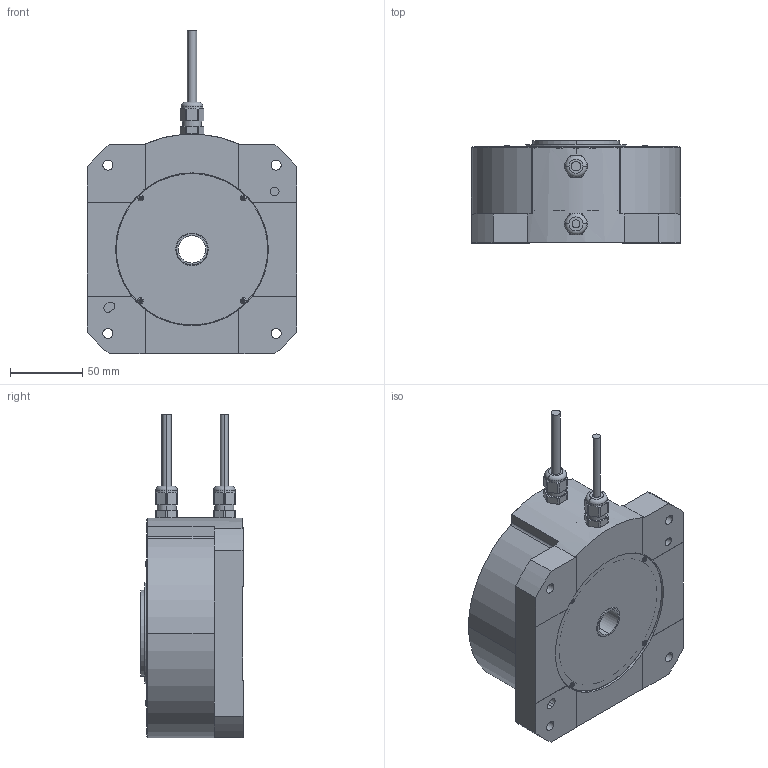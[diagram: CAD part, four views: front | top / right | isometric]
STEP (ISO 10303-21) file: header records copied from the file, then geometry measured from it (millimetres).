
FILE_DESCRIPTION (( 'STEP AP214' ), '1' );
FILE_NAME ('ND140-65-FSP(INC).step', '2024-03-26T00:39:22', ( '' ), ( '' ), 'SwSTEP 2.0', 'SolidWorks 2023', '' );
FILE_SCHEMA (( 'AUTOMOTIVE_DESIGN' ));
Length unit declared in the file: millimetre
Products named in the file (1): ND140-65-FSP(INC)
Bounding box: 145 x 70.8 x 224.5 mm (x, y, z)
Volume: 365218.8 mm3; surface area: 165150.2 mm2
Topology: 14 solids, 14 shells, 592 faces, 1582 edges, 1028 vertices
Faces by surface type: cylinder 237, plane 181, cone 81, bspline 66, torus 27
Entity records: 21865 total; most frequent: CARTESIAN_POINT 7447, ORIENTED_EDGE 3080, DIRECTION 2790, EDGE_CURVE 1540, AXIS2_PLACEMENT_3D 1106, VERTEX_POINT 1028, EDGE_LOOP 688, ADVANCED_FACE 592
